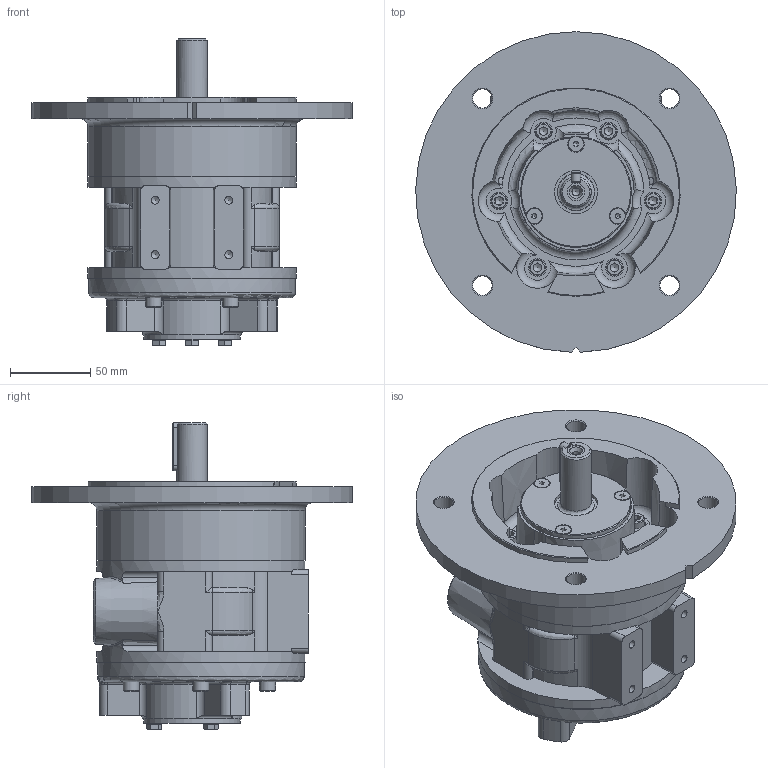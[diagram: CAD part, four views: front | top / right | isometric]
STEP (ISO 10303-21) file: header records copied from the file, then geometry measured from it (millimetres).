
FILE_DESCRIPTION (( 'STEP AP214' ), '1' );
FILE_NAME ('VS6C Defeature.STEP', '2022-06-14T11:04:13', ( '' ), ( '' ), 'SwSTEP 2.0', 'SolidWorks 2020', '' );
FILE_SCHEMA (( 'AUTOMOTIVE_DESIGN' ));
Length unit declared in the file: millimetre
Products named in the file (1): VS6C Defeature
Bounding box: 199.98 x 199.96 x 191.25 mm (x, y, z)
Volume: 1603993.6 mm3; surface area: 171341.3 mm2
Topology: 1 solids, 1 shells, 642 faces, 1603 edges, 984 vertices
Faces by surface type: plane 331, cylinder 130, cone 92, torus 52, bspline 30, sphere 7
Full cylindrical faces by diameter (mm): 5 x5, 8 x3, 9.64 x3, 10 x12, 11 x7, 12 x4, 19 x1, 20 x2, 24.117 x2, 27 x1, 60 x1, 69 x1, 128 x2, 129 x1, 130 x3
Entity records: 27198 total; most frequent: CARTESIAN_POINT 9997, DIRECTION 2907, ORIENTED_EDGE 2870, EDGE_CURVE 1435, AXIS2_PLACEMENT_3D 1130, VERTEX_POINT 926, EDGE_LOOP 783, FACE_OUTER_BOUND 692
